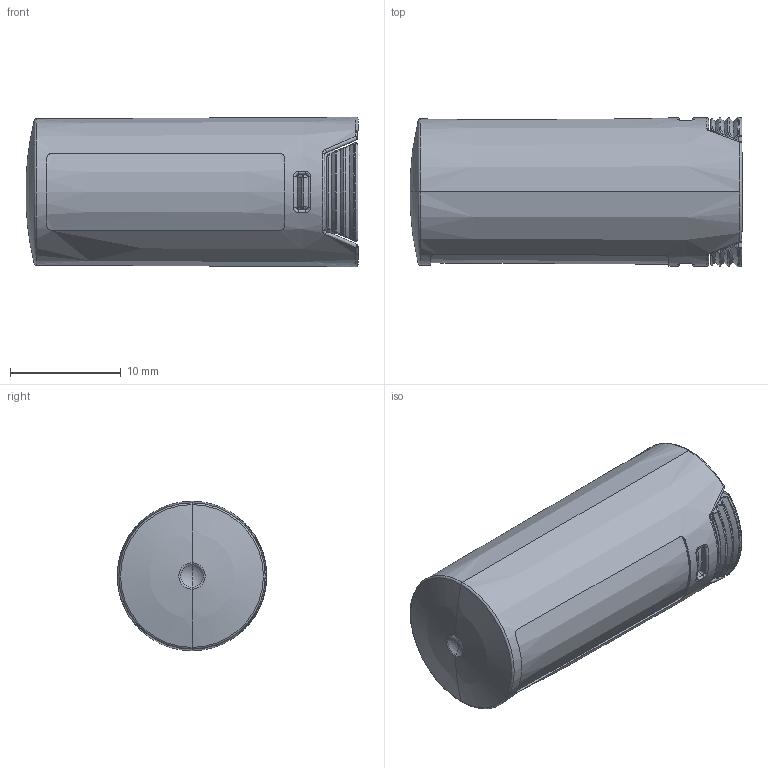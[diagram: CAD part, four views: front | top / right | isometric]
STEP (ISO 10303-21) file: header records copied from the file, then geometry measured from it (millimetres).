
FILE_DESCRIPTION(('Creo Elements/Direct Modeling STEP Export'),'2;1');
FILE_NAME('H13-0016-CE901_OA-QM4-600.stp','2014-06-05T14:17:54',(''),(''),'Creo Elements/Direct Modeling STEP processor for AP214 (Solid Model)','Creo Elements/Direct Modeling 18.1B 29-Sep-2012 (C) Parametric Technology GmbH','');
FILE_SCHEMA(('AUTOMOTIVE_DESIGN { 1 0 10303 214 1 1 1 1 }'));
Length unit declared in the file: millimetre
Products named in the file (5): OA-QM4-600_本体; OA-QM4-600_カバー; Ｍ4_ネジ; Ｍ4_ナット; OA-QM4-600
Assembly tree (4 placements, depth 2):
  OA-QM4-600
    Ｍ4_ナット
    Ｍ4_ネジ
    OA-QM4-600_カバー
    OA-QM4-600_本体
Bounding box: 29.97 x 13.5 x 13.5 mm (x, y, z)
Volume: 2298.7 mm3; surface area: 4230.6 mm2
Topology: 4 solids, 4 shells, 421 faces, 1068 edges, 648 vertices
Faces by surface type: bspline 160, cylinder 88, plane 84, torus 44, cone 31, sphere 14
Entity records: 28775 total; most frequent: CARTESIAN_POINT 20342, ORIENTED_EDGE 2120, DIRECTION 1166, EDGE_CURVE 1060, VERTEX_POINT 648, AXIS2_PLACEMENT_3D 478, B_SPLINE_CURVE_WITH_KNOTS 440, EDGE_LOOP 428
